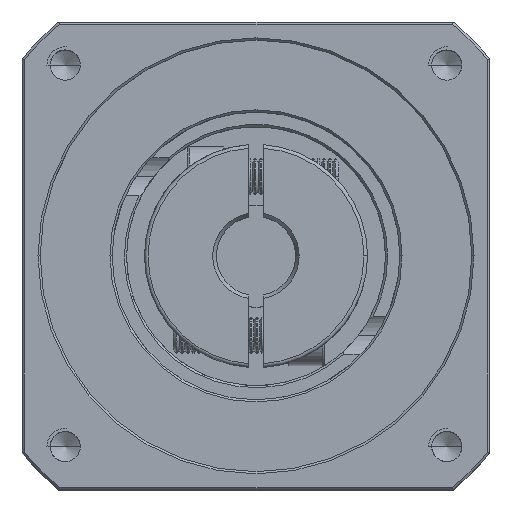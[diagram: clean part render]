
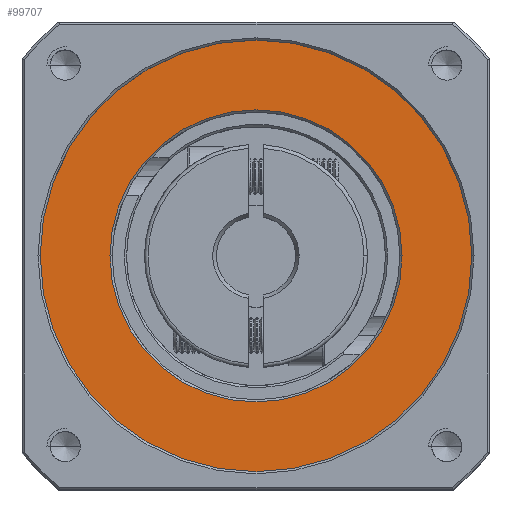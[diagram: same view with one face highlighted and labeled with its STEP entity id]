
A CAD part, top view. The second image highlights one B-rep face of the part: STEP entity #99707.
In plain terms, the highlighted planar face has unit normal (0, 0, 1).
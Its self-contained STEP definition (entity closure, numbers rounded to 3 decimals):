
#7710 = AXIS2_PLACEMENT_3D ( 'NONE', #98514, #13773, #14127 ) ;
#7753 = CARTESIAN_POINT ( 'NONE',  ( -91.9, 23.265, 17.333 ) ) ;
#13773 = DIRECTION ( 'NONE',  ( 0., 0., 1. ) ) ;
#14127 = DIRECTION ( 'NONE',  ( 1., 0., 0. ) ) ;
#15057 = DIRECTION ( 'NONE',  ( 1., 0., 0. ) ) ;
#22048 = VERTEX_POINT ( 'NONE', #7753 ) ;
#23665 = ORIENTED_EDGE ( 'NONE', *, *, #69433, .T. ) ;
#26791 = ORIENTED_EDGE ( 'NONE', *, *, #78611, .T. ) ;
#27843 = CIRCLE ( 'NONE', #7710, 30. ) ;
#32253 = EDGE_CURVE ( 'NONE', #59372, #36821, #86010, .T. ) ;
#35514 = CARTESIAN_POINT ( 'NONE',  ( -41.6, 23.265, 17.333 ) ) ;
#36821 = VERTEX_POINT ( 'NONE', #35514 ) ;
#37979 = EDGE_LOOP ( 'NONE', ( #26791, #91491 ) ) ;
#38081 = CARTESIAN_POINT ( 'NONE',  ( -61.9, 23.265, 17.333 ) ) ;
#39393 = AXIS2_PLACEMENT_3D ( 'NONE', #71311, #62388, #104451 ) ;
#47059 = ORIENTED_EDGE ( 'NONE', *, *, #52535, .T. ) ;
#49565 = AXIS2_PLACEMENT_3D ( 'NONE', #38081, #70318, #61744 ) ;
#50310 = FACE_BOUND ( 'NONE', #37979, .T. ) ;
#50795 = CIRCLE ( 'NONE', #49565, 20.3 ) ;
#52535 = EDGE_CURVE ( 'NONE', #75391, #22048, #68824, .T. ) ;
#53461 = AXIS2_PLACEMENT_3D ( 'NONE', #79499, #95348, #53543 ) ;
#53543 = DIRECTION ( 'NONE',  ( 1., 0., 0. ) ) ;
#58787 = PLANE ( 'NONE',  #79539 ) ;
#59372 = VERTEX_POINT ( 'NONE', #65332 ) ;
#61744 = DIRECTION ( 'NONE',  ( 1., 0., 0. ) ) ;
#62388 = DIRECTION ( 'NONE',  ( 0., 0., 1. ) ) ;
#65332 = CARTESIAN_POINT ( 'NONE',  ( -82.2, 23.265, 17.333 ) ) ;
#65478 = CARTESIAN_POINT ( 'NONE',  ( -61.9, 23.265, 17.333 ) ) ;
#68824 = CIRCLE ( 'NONE', #39393, 30. ) ;
#69433 = EDGE_CURVE ( 'NONE', #22048, #75391, #27843, .T. ) ;
#70318 = DIRECTION ( 'NONE',  ( 0., 0., -1. ) ) ;
#71311 = CARTESIAN_POINT ( 'NONE',  ( -61.9, 23.265, 17.333 ) ) ;
#75391 = VERTEX_POINT ( 'NONE', #108663 ) ;
#78611 = EDGE_CURVE ( 'NONE', #36821, #59372, #50795, .T. ) ;
#79499 = CARTESIAN_POINT ( 'NONE',  ( -61.9, 23.265, 17.333 ) ) ;
#79539 = AXIS2_PLACEMENT_3D ( 'NONE', #65478, #99443, #15057 ) ;
#79725 = EDGE_LOOP ( 'NONE', ( #47059, #23665 ) ) ;
#86010 = CIRCLE ( 'NONE', #53461, 20.3 ) ;
#87433 = FACE_OUTER_BOUND ( 'NONE', #79725, .T. ) ;
#91491 = ORIENTED_EDGE ( 'NONE', *, *, #32253, .T. ) ;
#95348 = DIRECTION ( 'NONE',  ( 0., 0., -1. ) ) ;
#98514 = CARTESIAN_POINT ( 'NONE',  ( -61.9, 23.265, 17.333 ) ) ;
#99443 = DIRECTION ( 'NONE',  ( 0., 0., 1. ) ) ;
#99707 = ADVANCED_FACE ( 'NONE', ( #50310, #87433 ), #58787, .T. ) ;
#104451 = DIRECTION ( 'NONE',  ( 1., 0., 0. ) ) ;
#108663 = CARTESIAN_POINT ( 'NONE',  ( -31.9, 23.265, 17.333 ) ) ;
